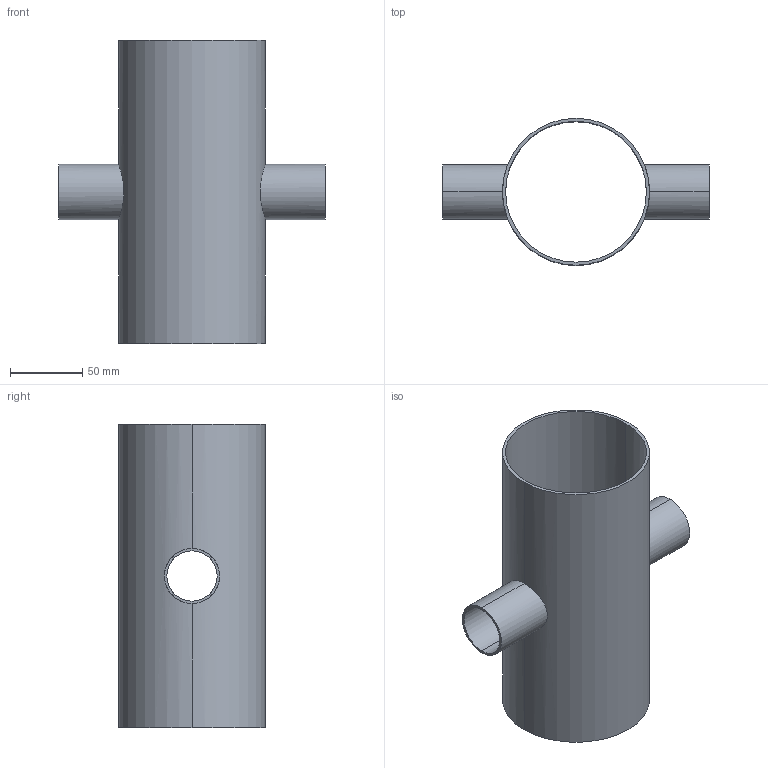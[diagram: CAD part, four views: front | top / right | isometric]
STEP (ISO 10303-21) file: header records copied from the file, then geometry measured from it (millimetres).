
FILE_DESCRIPTION (( 'STEP AP214' ), '1' );
FILE_NAME ('TE9RWWWW6L4.0x1.5-...STEP', '2016-05-22T04:46:31', ( 'eran' ), ( '' ), 'SwSTEP 2.0', 'SolidWorks 2016', '' );
FILE_SCHEMA (( 'AUTOMOTIVE_DESIGN' ));
Length unit declared in the file: millimetre
Products named in the file (1): TE9RWWWW6L4.0x1.5-..
Bounding box: 184.15 x 101.6 x 209.55 mm (x, y, z)
Volume: 150251.4 mm3; surface area: 148588.8 mm2
Topology: 1 solids, 1 shells, 16 faces, 40 edges, 24 vertices
Faces by surface type: cylinder 12, plane 4
Entity records: 906 total; most frequent: CARTESIAN_POINT 481, DIRECTION 82, ORIENTED_EDGE 80, EDGE_CURVE 40, AXIS2_PLACEMENT_3D 33, VERTEX_POINT 24, EDGE_LOOP 20, FACE_OUTER_BOUND 16
